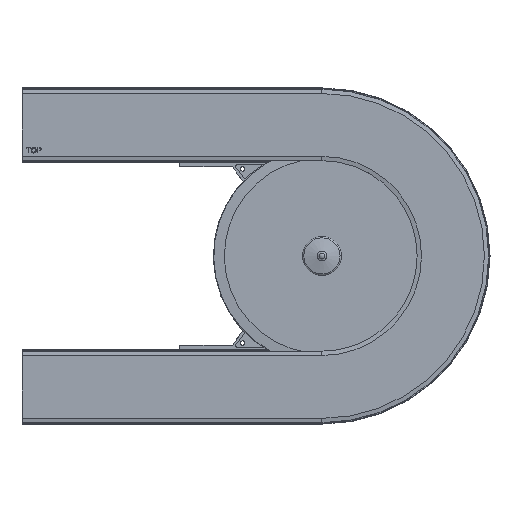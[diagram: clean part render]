
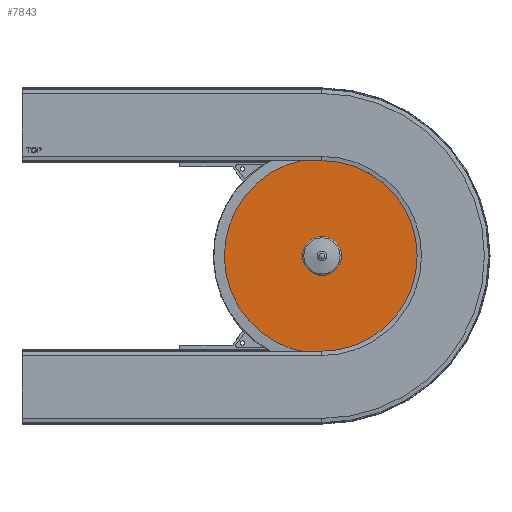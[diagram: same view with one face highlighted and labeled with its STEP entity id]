
A CAD part, top view. The second image highlights one B-rep face of the part: STEP entity #7843.
In plain terms, the highlighted planar face has unit normal (0, 0, 1).
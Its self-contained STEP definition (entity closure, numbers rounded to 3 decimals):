
#7792=CARTESIAN_POINT('',(0.,-22.249,3.5));
#7793=VERTEX_POINT('',#7792);
#7794=CARTESIAN_POINT('',(0.0,0.0,3.5));
#7795=DIRECTION('',(0.0,0.0,1.0));
#7796=DIRECTION('',(0.0,1.0,0.0));
#7797=AXIS2_PLACEMENT_3D('',#7794,#7795,#7796);
#7798=CIRCLE('',#7797,22.249);
#7799=EDGE_CURVE('',#7793,#7793,#7798,.T.);
#7824=CARTESIAN_POINT('',(0.0,67.366,3.5));
#7825=DIRECTION('',(0.0,0.0,1.0));
#7826=DIRECTION('',(1.0,0.0,0.0));
#7827=AXIS2_PLACEMENT_3D('',#7824,#7825,#7826);
#7828=PLANE('',#7827);
#7829=CARTESIAN_POINT('',(0.0,113.232,3.5));
#7830=VERTEX_POINT('',#7829);
#7831=CARTESIAN_POINT('',(0.0,0.0,3.5));
#7832=DIRECTION('',(0.0,0.0,-1.0));
#7833=DIRECTION('',(0.0,1.0,0.0));
#7834=AXIS2_PLACEMENT_3D('',#7831,#7832,#7833);
#7835=CIRCLE('',#7834,113.232);
#7836=EDGE_CURVE('',#7830,#7830,#7835,.T.);
#7837=ORIENTED_EDGE('',*,*,#7836,.F.);
#7838=EDGE_LOOP('',(#7837));
#7839=FACE_OUTER_BOUND('',#7838,.T.);
#7840=ORIENTED_EDGE('',*,*,#7799,.F.);
#7841=EDGE_LOOP('',(#7840));
#7842=FACE_BOUND('',#7841,.T.);
#7843=ADVANCED_FACE('',(#7839,#7842),#7828,.T.);
